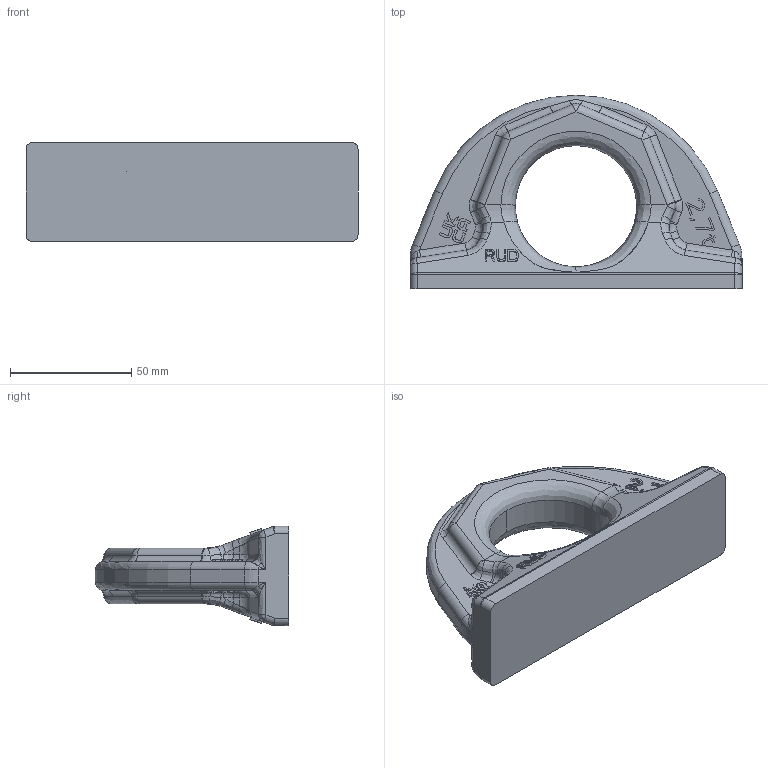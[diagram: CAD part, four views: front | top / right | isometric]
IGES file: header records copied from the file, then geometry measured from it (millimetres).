
Start section:  PTC IGES file: 001-m36283-p-1.igs
Global section: file name: 001-m36283-p-1.igs; native system: Creo Parametric by PTC Inc.; preprocessor: 2022162; author: Anja.Joas; organization: Unknown; date: 20221220.072155; units: millimetre
Bounding box: 137 x 79.8 x 41 mm (x, y, z)
Surface area: 28204.8 mm2 (no closed solid volume)
Topology: 0 solids, 0 shells, 552 faces, 2894 edges, 2894 vertices
Faces by surface type: bspline 440, revolution 112
